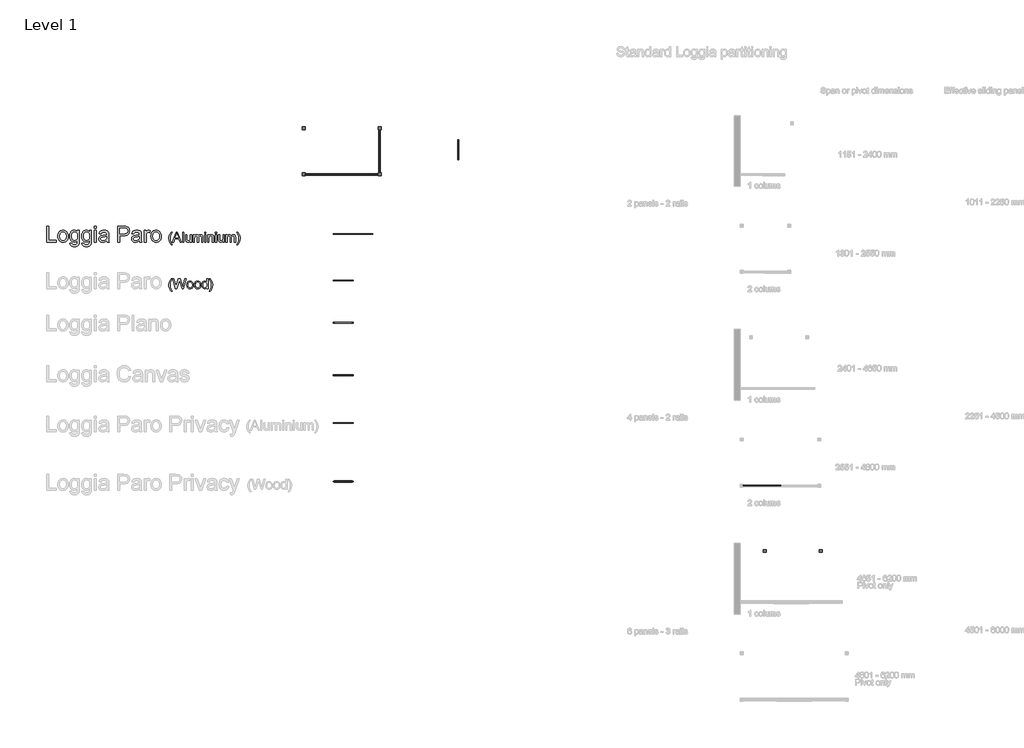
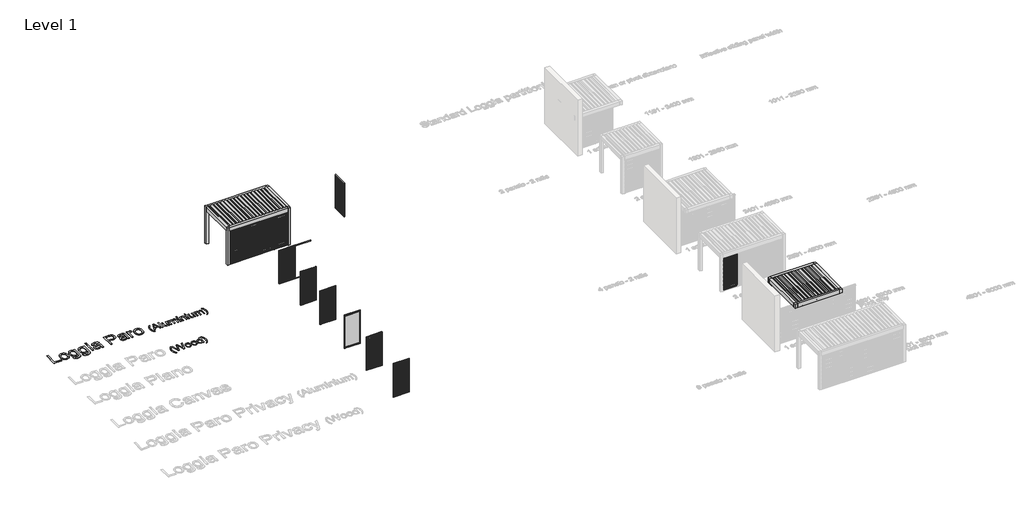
# One storey, part 32 of 69: 19 proxies.
"""IFC4 building model written with IfcOpenShell, lengths in millimetres."""

from ifc_helpers import new_model, si_unit, origin, origin_with_axes, place, context, project, spatial, polyline, outline, extrude, transform, mapped, element, save
from components import generic_models_86cdeedc, generic_models_456a874e, generic_models_a826ae34, generic_models_8007af27, generic_models_75aa1dad, generic_models_bb8b41d5, generic_models_04effbe2, generic_models_42a8c13e, generic_models_8e0265fe, generic_models_d6fe2a31, generic_models_e57e72d8, generic_models_be22ee1f, generic_models_a9ccf2dc, generic_models_1ebb2ca0, generic_models_ce49d216

model = new_model("IFC4")

# Units and contexts
model_context = context("Model", 3, world=origin())
ifc_project = project(units=[si_unit("LENGTHUNIT", "METRE", prefix="MILLI")], contexts=[model_context])

# Site, building, storey
site = spatial("IfcSite", under=ifc_project)
building = spatial("IfcBuilding", under=site)
storey = spatial("IfcBuildingStorey", under=building, Name="Level 1", Elevation=0.0)

# Proxies
placement = place(None, origin())
generic_models_shape = generic_models_86cdeedc(model_context)
element("IfcBuildingElementProxy", 1, Name="Renson_Camargue_Loggia_Paro_Aluminium : Renson_Camargue_Loggia_Paro_Aluminium", ObjectType="Renson_Camargue_Loggia_Paro_Aluminium : Renson_Camargue_Loggia_Paro_Aluminium", at=placement, inside=storey, context=model_context, shape_type="MappedRepresentation", body=[
    mapped(generic_models_shape, transform((207582.4649482, -11289.318181, 0.0), x_axis=(1.0, 0.0, 0.0), y_axis=(0.0, 1.0, 0.0), z_axis=(0.0, 0.0, 1.0))),
])
generic_models_2_shape = generic_models_456a874e(model_context)
element("IfcBuildingElementProxy", 2, Name="Renson_Camargue_Loggia_Paro_Aluminium : Renson_Camargue_Loggia_Paro_Aluminium", ObjectType="Renson_Camargue_Loggia_Paro_Aluminium : Renson_Camargue_Loggia_Paro_Aluminium", at=placement, inside=storey, context=model_context, shape_type="MappedRepresentation", body=[
    mapped(generic_models_2_shape, transform((208485.5749426, -11249.318181, 0.0), x_axis=(1.0, 0.0, 0.0), y_axis=(0.0, 1.0, 0.0), z_axis=(0.0, 0.0, 1.0))),
])
generic_models_3_shape = generic_models_a826ae34(model_context)
element("IfcBuildingElementProxy", 3, Name="Renson_Camargue_Loggia_Paro_Aluminium : Renson_Camargue_Loggia_Paro_Aluminium", ObjectType="Renson_Camargue_Loggia_Paro_Aluminium : Renson_Camargue_Loggia_Paro_Aluminium", at=placement, inside=storey, context=model_context, shape_type="MappedRepresentation", body=[
    mapped(generic_models_3_shape, transform((209465.5749426, -11249.318181, 0.0), x_axis=(1.0, 0.0, 0.0), y_axis=(0.0, 1.0, 0.0), z_axis=(0.0, 0.0, 1.0))),
])
generic_models_4_shape = generic_models_8007af27(model_context)
element("IfcBuildingElementProxy", 4, Name="Renson_Camargue_Loggia_Paro_Aluminium : Renson_Camargue_Loggia_Paro_Aluminium", ObjectType="Renson_Camargue_Loggia_Paro_Aluminium : Renson_Camargue_Loggia_Paro_Aluminium", at=placement, inside=storey, context=model_context, shape_type="MappedRepresentation", body=[
    mapped(generic_models_4_shape, transform((210375.5749426, -11289.318181, 0.0), x_axis=(1.0, 0.0, 0.0), y_axis=(0.0, 1.0, 0.0), z_axis=(0.0, 0.0, 1.0))),
])
generic_models_5_shape = generic_models_75aa1dad(model_context)
element("IfcBuildingElementProxy", 5, Name="Renson_Camargue_Loggia_Paro_Aluminium : Renson_Camargue_Loggia_Paro_Aluminium", ObjectType="Renson_Camargue_Loggia_Paro_Aluminium : Renson_Camargue_Loggia_Paro_Aluminium", at=placement, inside=storey, context=model_context, shape_type="MappedRepresentation", body=[
    mapped(generic_models_5_shape, transform((210920.5749426, -9549.318181, 0.0), x_axis=(0.0, 1.0000000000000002, 0.0), y_axis=(-1.0000000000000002, 0.0, 0.0), z_axis=(0.0, 0.0, 1.0))),
])
generic_models_6_shape = generic_models_bb8b41d5(model_context)
element("IfcBuildingElementProxy", 6, Name="Renson_Camargue_Loggia_Paro_Aluminium : Renson_Camargue_Loggia_Paro_Aluminium", ObjectType="Renson_Camargue_Loggia_Paro_Aluminium : Renson_Camargue_Loggia_Paro_Aluminium", at=placement, inside=storey, context=model_context, shape_type="MappedRepresentation", body=[
    mapped(generic_models_6_shape, transform((214898.9521491, -10011.4946155, 0.0), x_axis=(0.0, 1.0000000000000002, 0.0), y_axis=(-1.0000000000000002, 0.0, 0.0), z_axis=(0.0, 0.0, 1.0))),
])
generic_models_7_shape = generic_models_04effbe2(model_context)
element("IfcBuildingElementProxy", 7, Name="Renson_Camargue_Loggia_Paro_Aluminium : Renson_Camargue_Loggia_Paro_Aluminium", ObjectType="Renson_Camargue_Loggia_Paro_Aluminium : Renson_Camargue_Loggia_Paro_Aluminium", at=placement, inside=storey, context=model_context, shape_type="MappedRepresentation", body=[
    mapped(generic_models_7_shape, transform((210870.5749426, -10629.318181, 0.0), x_axis=(0.0, 1.0000000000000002, 0.0), y_axis=(-1.0000000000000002, 0.0, 0.0), z_axis=(0.0, 0.0, 1.0))),
])
element("IfcBuildingElementProxy", 8, Name="Renson_Camargue_Loggia_Paro_Wood : Renson_Camargue_Loggia_Paro_Wood", ObjectType="Renson_Camargue_Loggia_Paro_Wood : Renson_Camargue_Loggia_Paro_Wood", at=placement, inside=storey, context=model_context, shape_type="MappedRepresentation", body=[
    mapped(generic_models_6_shape, transform((209050.5749426, -16662.8726434, 0.0), x_axis=(1.0, 0.0, 0.0), y_axis=(0.0, 1.0, 0.0), z_axis=(0.0, 0.0, 1.0))),
])
generic_models_8_shape = generic_models_42a8c13e(model_context)
element("IfcBuildingElementProxy", 9, Name="Renson_Camargue_Loggia_Plano : Renson_Camargue_Loggia_Plano", ObjectType="Renson_Camargue_Loggia_Plano : Renson_Camargue_Loggia_Plano", at=placement, inside=storey, context=model_context, shape_type="MappedRepresentation", body=[
    mapped(generic_models_8_shape, transform((209050.5749426, -18808.182137, 0.0), x_axis=(1.0, 0.0, 0.0), y_axis=(0.0, 1.0, 0.0), z_axis=(0.0, 0.0, 1.0))),
])
generic_models_9_shape = generic_models_8e0265fe(model_context)
element("IfcBuildingElementProxy", 10, Name="Renson_Camargue_Loggia_Canvas : Renson_Camargue_Loggia_Canvas", ObjectType="Renson_Camargue_Loggia_Canvas : Renson_Camargue_Loggia_Canvas", at=placement, inside=storey, context=model_context, shape_type="MappedRepresentation", body=[
    mapped(generic_models_9_shape, transform((209050.5749426, -21480.3022523, 0.0), x_axis=(1.0, 0.0, 0.0), y_axis=(0.0, 1.0, 0.0), z_axis=(0.0, 0.0, 1.0))),
])
generic_models_10_shape = generic_models_d6fe2a31(model_context)
element("IfcBuildingElementProxy", 11, Name="Renson_Camargue_Loggia_Paro_Privacy_Wood : Renson_Camargue_Loggia_Paro_Privacy_Wood", ObjectType="Renson_Camargue_Loggia_Paro_Privacy_Wood : Renson_Camargue_Loggia_Paro_Privacy_Wood", at=placement, inside=storey, context=model_context, shape_type="MappedRepresentation", body=[
    mapped(generic_models_10_shape, transform((209050.5749426, -26880.959094, 0.0), x_axis=(1.0, 0.0, 0.0), y_axis=(0.0, 1.0, 0.0), z_axis=(0.0, 0.0, 1.0))),
])
generic_models_11_shape = generic_models_e57e72d8(model_context)
element("IfcBuildingElementProxy", 12, Name="Renson_Camargue_Loggia_Paro_Aluminium : Renson_Camargue_Loggia_Paro_Aluminium", ObjectType="Renson_Camargue_Loggia_Paro_Aluminium : Renson_Camargue_Loggia_Paro_Aluminium", at=placement, inside=storey, context=model_context, shape_type="MappedRepresentation", body=[
    mapped(generic_models_11_shape, transform((229881.2027724, -27084.1058954, 0.0), x_axis=(1.0, 0.0, 0.0), y_axis=(0.0, 1.0, 0.0), z_axis=(0.0, 0.0, 1.0))),
])
generic_models_12_shape = generic_models_be22ee1f(model_context)
element("IfcBuildingElementProxy", 13, Name="Renson_Camargue_Loggia_Paro_Privacy_Aluminium : Renson_Camargue_Loggia_Paro_Privacy_Aluminium", ObjectType="Renson_Camargue_Loggia_Paro_Privacy_Aluminium : Renson_Camargue_Loggia_Paro_Privacy_Aluminium", at=placement, inside=storey, context=model_context, shape_type="MappedRepresentation", body=[
    mapped(generic_models_12_shape, transform((209050.5749426, -23908.182137, 0.0), x_axis=(1.0, 0.0, 0.0), y_axis=(0.0, 1.0, 0.0), z_axis=(0.0, 0.0, 1.0))),
])
generic_models_13_shape = generic_models_a9ccf2dc(model_context)
element("IfcBuildingElementProxy", 14, Name="Renson_Camargue_Loggia_Paro_Aluminium : Renson_Camargue_Loggia_Paro_Aluminium", ObjectType="Renson_Camargue_Loggia_Paro_Aluminium : Renson_Camargue_Loggia_Paro_Aluminium", at=placement, inside=storey, context=model_context, shape_type="MappedRepresentation", body=[
    mapped(generic_models_13_shape, transform((209050.5749426, -14294.3676714, 0.0), x_axis=(1.0, 0.0, 0.0), y_axis=(0.0, 1.0, 0.0), z_axis=(0.0, 0.0, 1.0))),
])
generic_models_14_shape = generic_models_1ebb2ca0(model_context)
element("IfcBuildingElementProxy", 15, Name="Renson_Camargue_Freestanding_Patio covers : Renson_Camargue_Freestanding_Patio covers", ObjectType="Renson_Camargue_Freestanding_Patio covers : Renson_Camargue_Freestanding_Patio covers", at=placement, inside=storey, context=model_context, shape_type="MappedRepresentation", body=[
    mapped(generic_models_14_shape, transform((208975.5749426, -10089.318181, 0.0), x_axis=(1.0, 0.0, 0.0), y_axis=(0.0, 1.0, 0.0), z_axis=(0.0, 0.0, 1.0))),
])
generic_models_15_shape = generic_models_ce49d216(model_context)
element("IfcBuildingElementProxy", 16, Name="Renson_Camargue_Facade-Mounted_Patio covers : Renson_Camargue_Facade-Mounted_Patio covers", ObjectType="Renson_Camargue_Facade-Mounted_Patio covers : Renson_Camargue_Facade-Mounted_Patio covers", at=placement, inside=storey, context=model_context, shape_type="MappedRepresentation", body=[
    mapped(generic_models_15_shape, transform((231913.7027724, -31844.5606558, 0.0), x_axis=(1.0, 0.0, 0.0), y_axis=(0.0, 1.0, 0.0), z_axis=(0.0, 0.0, 1.0))),
])
element("IfcBuildingElementProxy", 17, Name="500mm Arial", ObjectType="500mm Arial", at=placement, inside=storey, context=model_context, shape_type="SweptSolid", body=[
    extrude(outline(polyline([(200309.8198995, -14847.747949), (200284.4743629, -14814.952802), (200261.1675056, -14779.4751821), (200220.6698293, -14700.4725236), (200204.7359404, -14657.9055111), (200193.3545912, -14614.5720778), (200186.5257817, -14570.4722236), (200184.2495118, -14525.6059486), (200185.950966, -14486.1735972), (200191.0553287, -14447.5843088), (200199.5625999, -14409.8380832), (200211.4727795, -14372.9349206), (200229.5756393, -14330.6131627), (200252.0011126, -14288.3833754), (200278.7491993, -14246.2455585), (200309.8198995, -14204.1997121), (200356.9087949, -14204.1997121), (200298.170303, -14303.6504782), (200278.1207342, -14350.8620009), (200262.8536314, -14400.0355609), (200250.9894371, -14462.8514116), (200247.0347057, -14525.9738306), (200248.7514883, -14566.2224201), (200253.9018362, -14606.4633454), (200262.4857494, -14646.6966066), (200274.503228, -14686.9222035), (200308.8388808, -14767.3504047), (200356.9087949, -14847.747949), (200309.8198995, -14847.747949)])), origin_with_axes(), (0.0, 0.0, 1.0), 5.0),
    extrude(outline(polyline([(200369.0489007, -14706.4812629), (200569.5445881, -14204.1997121), (200623.0101047, -14204.1997121), (200823.5057921, -14706.4812629), (200757.1644056, -14706.4812629), (200699.6521871, -14549.5182783), (200492.7798784, -14549.5182783), (200435.3902872, -14706.4812629), (200369.0489007, -14706.4812629)]), holes=[polyline([(200515.8338168, -14486.7330844), (200676.720876, -14486.7330844), (200631.4713906, -14363.2473614), (200596.2773464, -14266.984906), (200565.0073768, -14352.4561562), (200515.8338168, -14486.7330844)])]), origin_with_axes(), (0.0, 0.0, 1.0), 5.0),
    extrude(outline(polyline([(200882.7347933, -14706.4812629), (200882.7347933, -14204.1997121), (200945.5199872, -14204.1997121), (200945.5199872, -14706.4812629), (200882.7347933, -14706.4812629)])), origin_with_axes(), (0.0, 0.0, 1.0), 5.0),
    extrude(outline(polyline([(201275.1422548, -14706.4812629), (201275.1422548, -14643.0829324), (201252.4255416, -14674.2532673), (201225.9686948, -14696.5177922), (201195.7717144, -14709.8765071), (201161.8346003, -14714.3294121), (201131.2544095, -14711.2024152), (201102.7895401, -14701.8214243), (201078.9078672, -14687.7192811), (201062.077266, -14670.4288274), (201050.7495662, -14649.4288968), (201043.3765979, -14624.1983233), (201039.6977779, -14565.8277134), (201039.6977779, -14337.6182491), (201102.4829718, -14337.6182491), (201102.4829718, -14536.2745265), (201106.2844191, -14600.2859936), (201115.4354837, -14621.6384777), (201131.1164537, -14637.8712708), (201152.2849969, -14648.1259814), (201177.8987808, -14651.5442183), (201204.9840927, -14648.0493393), (201230.3219651, -14637.5647025), (201251.2145967, -14621.0559979), (201264.9641863, -14599.488916), (201272.5977377, -14569.9510574), (201275.1422548, -14529.5300232), (201275.1422548, -14337.6182491), (201337.9274487, -14337.6182491), (201337.9274487, -14706.4812629), (201275.1422548, -14706.4812629)])), origin_with_axes(), (0.0, 0.0, 1.0), 5.0),
    extrude(outline(polyline([(201424.2570902, -14706.4812629), (201424.2570902, -14337.6182491), (201487.0422841, -14337.6182491), (201487.0422841, -14398.3187783), (201505.9268931, -14370.4363887), (201530.2071048, -14348.5933952), (201559.0551846, -14334.4759237), (201591.643398, -14329.7700998), (201626.5615307, -14334.5678942), (201654.5512192, -14348.9612772), (201675.4591793, -14371.9998872), (201689.1321267, -14402.7333622), (201712.0174525, -14370.8119349), (201738.1217458, -14348.0109154), (201767.4450065, -14334.3303037), (201799.9872346, -14329.7700998), (201825.1220055, -14331.6669914), (201847.1834289, -14337.357666), (201866.1715048, -14346.8421237), (201882.0862332, -14360.1203644), (201894.667031, -14377.3456724), (201903.6533152, -14398.6713318), (201909.0450857, -14424.0973427), (201910.8423425, -14453.6237049), (201910.8423425, -14706.4812629), (201848.0571487, -14706.4812629), (201848.0571487, -14480.6017178), (201846.6009491, -14449.285763), (201842.2323504, -14428.1785335), (201834.046976, -14413.7238368), (201821.1404493, -14402.3654802), (201804.5397743, -14395.0078403), (201785.2719548, -14392.5552937), (201767.4794954, -14394.1264564), (201751.2581987, -14398.8399444), (201736.6080646, -14406.6957579), (201723.5290933, -14417.6938967), (201712.772377, -14432.1562576), (201705.0890083, -14450.4047374), (201700.478987, -14472.4393361), (201698.9423133, -14498.2600536), (201698.9423133, -14706.4812629), (201636.1571194, -14706.4812629), (201636.1571194, -14473.6119599), (201632.5242847, -14438.1113474), (201621.6257806, -14412.7888034), (201613.1989837, -14403.9366429), (201602.4499316, -14397.6136711), (201573.9850623, -14392.5552937), (201549.7968211, -14395.9275453), (201527.5093035, -14406.0443002), (201509.1152038, -14422.6603036), (201496.6072159, -14445.530301), (201489.433517, -14477.2601231), (201487.0422841, -14520.4556007), (201487.0422841, -14706.4812629), (201424.2570902, -14706.4812629)])), origin_with_axes(), (0.0, 0.0, 1.0), 5.0),
    extrude(outline(polyline([(202005.0201333, -14266.984906), (202005.0201333, -14204.1997121), (202067.8053271, -14204.1997121), (202067.8053271, -14266.984906), (202005.0201333, -14266.984906)])), origin_with_axes(), (0.0, 0.0, 1.0), 5.0),
    extrude(outline(polyline([(202005.0201333, -14706.4812629), (202005.0201333, -14337.6182491), (202067.8053271, -14337.6182491), (202067.8053271, -14706.4812629), (202005.0201333, -14706.4812629)])), origin_with_axes(), (0.0, 0.0, 1.0), 5.0),
    extrude(outline(polyline([(202161.9831179, -14706.4812629), (202161.9831179, -14337.6182491), (202224.7683117, -14337.6182491), (202224.7683117, -14389.1217284), (202246.5806484, -14363.1553909), (202272.7769121, -14344.608007), (202303.3571029, -14333.4795766), (202338.3212209, -14329.7700998), (202369.2692937, -14332.759141), (202397.6115358, -14341.7262647), (202421.247954, -14355.5524963), (202438.0785553, -14373.1188616), (202449.4982255, -14394.3793752), (202456.9018507, -14419.288052), (202460.2127886, -14479.9885812), (202460.2127886, -14706.4812629), (202397.4275948, -14706.4812629), (202397.4275948, -14488.4498671), (202395.6188416, -14455.984281), (202390.1925822, -14432.8996858), (202380.1831263, -14416.3603244), (202364.6247836, -14403.5304399), (202344.6825137, -14395.2990802), (202321.5212765, -14392.5552937), (202302.4565585, -14394.0957995), (202284.7484054, -14398.7173171), (202268.3968171, -14406.4198464), (202253.4017937, -14417.2033873), (202240.8746453, -14432.2942134), (202231.9266822, -14452.9185977), (202226.5579043, -14479.0765404), (202224.7683117, -14510.7680415), (202224.7683117, -14706.4812629), (202161.9831179, -14706.4812629)])), origin_with_axes(), (0.0, 0.0, 1.0), 5.0),
    extrude(outline(polyline([(202546.5424302, -14706.4812629), (202546.5424302, -14337.6182491), (202609.327624, -14337.6182491), (202609.327624, -14706.4812629), (202546.5424302, -14706.4812629)])), origin_with_axes(), (0.0, 0.0, 1.0), 5.0),
    extrude(outline(polyline([(202546.5424302, -14266.984906), (202546.5424302, -14204.1997121), (202609.327624, -14204.1997121), (202609.327624, -14266.984906), (202546.5424302, -14266.984906)])), origin_with_axes(), (0.0, 0.0, 1.0), 5.0),
    extrude(outline(polyline([(202938.9498917, -14706.4812629), (202938.9498917, -14643.0829324), (202916.2331785, -14674.2532673), (202889.7763317, -14696.5177922), (202859.5793512, -14709.8765071), (202825.6422372, -14714.3294121), (202795.0620463, -14711.2024152), (202766.597177, -14701.8214243), (202742.7155041, -14687.7192811), (202725.8849028, -14670.4288274), (202714.5572031, -14649.4288968), (202707.1842347, -14624.1983233), (202703.5054148, -14565.8277134), (202703.5054148, -14337.6182491), (202766.2906086, -14337.6182491), (202766.2906086, -14536.2745265), (202770.0920559, -14600.2859936), (202779.2431205, -14621.6384777), (202794.9240906, -14637.8712708), (202816.0926337, -14648.1259814), (202841.7064176, -14651.5442183), (202868.7917295, -14648.0493393), (202894.1296019, -14637.5647025), (202915.0222336, -14621.0559979), (202928.7718232, -14599.488916), (202936.4053746, -14569.9510574), (202938.9498917, -14529.5300232), (202938.9498917, -14337.6182491), (203001.7350855, -14337.6182491), (203001.7350855, -14706.4812629), (202938.9498917, -14706.4812629)])), origin_with_axes(), (0.0, 0.0, 1.0), 5.0),
    extrude(outline(polyline([(203088.0647271, -14706.4812629), (203088.0647271, -14337.6182491), (203150.8499209, -14337.6182491), (203150.8499209, -14398.3187783), (203169.73453, -14370.4363887), (203194.0147417, -14348.5933952), (203222.8628215, -14334.4759237), (203255.4510349, -14329.7700998), (203290.3691676, -14334.5678942), (203318.3588561, -14348.9612772), (203339.2668161, -14371.9998872), (203352.9397636, -14402.7333622), (203375.8250894, -14370.8119349), (203401.9293826, -14348.0109154), (203431.2526433, -14334.3303037), (203463.7948715, -14329.7700998), (203488.9296424, -14331.6669914), (203510.9910658, -14337.357666), (203529.9791417, -14346.8421237), (203545.8938701, -14360.1203644), (203558.4746679, -14377.3456724), (203567.460952, -14398.6713318), (203572.8527225, -14424.0973427), (203574.6499794, -14453.6237049), (203574.6499794, -14706.4812629), (203511.8647855, -14706.4812629), (203511.8647855, -14480.6017178), (203510.408586, -14449.285763), (203506.0399873, -14428.1785335), (203497.8546129, -14413.7238368), (203484.9480862, -14402.3654802), (203468.3474112, -14395.0078403), (203449.0795917, -14392.5552937), (203431.2871323, -14394.1264564), (203415.0658355, -14398.8399444), (203400.4157015, -14406.6957579), (203387.3367301, -14417.6938967), (203376.5800139, -14432.1562576), (203368.8966451, -14450.4047374), (203364.2866239, -14472.4393361), (203362.7499501, -14498.2600536), (203362.7499501, -14706.4812629), (203299.9647563, -14706.4812629), (203299.9647563, -14473.6119599), (203296.3319216, -14438.1113474), (203285.4334175, -14412.7888034), (203277.0066205, -14403.9366429), (203266.2575685, -14397.6136711), (203237.7926991, -14392.5552937), (203213.6044579, -14395.9275453), (203191.3169404, -14406.0443002), (203172.9228406, -14422.6603036), (203160.4148528, -14445.530301), (203153.2411539, -14477.2601231), (203150.8499209, -14520.4556007), (203150.8499209, -14706.4812629), (203088.0647271, -14706.4812629)])), origin_with_axes(), (0.0, 0.0, 1.0), 5.0),
    extrude(outline(polyline([(203684.5240686, -14847.747949), (203637.4351732, -14847.747949), (203685.5050872, -14767.3504047), (203719.8407401, -14686.9222035), (203731.8582186, -14646.6966066), (203740.4421319, -14606.4633454), (203745.5924798, -14566.2224201), (203747.3092624, -14525.9738306), (203743.354531, -14463.3112641), (203731.4903366, -14401.1392069), (203716.4991453, -14351.8736764), (203696.5415471, -14304.6314968), (203637.4351732, -14204.1997121), (203684.5240686, -14204.1997121), (203715.5947688, -14246.2455585), (203742.3428555, -14288.3833754), (203764.7683288, -14330.6131627), (203782.8711886, -14372.9349206), (203794.7813682, -14409.8380832), (203803.2886394, -14447.5843088), (203808.393002, -14486.1735972), (203810.0944563, -14525.6059486), (203807.8066901, -14570.4722236), (203800.9433916, -14614.5720778), (203789.5045609, -14657.9055111), (203773.4901978, -14700.4725236), (203732.9465362, -14779.4751821), (203684.5240686, -14847.747949)])), origin_with_axes(), (0.0, 0.0, 1.0), 5.0),
])
element("IfcBuildingElementProxy", 18, Name="500mm Arial", ObjectType="500mm Arial", at=placement, inside=storey, context=model_context, shape_type="SweptSolid", body=[
    extrude(outline(polyline([(200308.305181, -17216.2529211), (200282.9596444, -17183.4577741), (200259.6527871, -17147.9801541), (200219.1551108, -17068.9774957), (200203.2212219, -17026.4104832), (200191.8398727, -16983.0770498), (200185.0110632, -16938.9771956), (200182.7347933, -16894.1109206), (200184.4362475, -16854.6785693), (200189.5406102, -16816.0892808), (200198.0478814, -16778.3430553), (200209.958061, -16741.4398926), (200228.0609208, -16699.1181348), (200250.4863941, -16656.8883474), (200277.2344808, -16614.7505306), (200308.305181, -16572.7046842), (200355.3940764, -16572.7046842), (200296.6555845, -16672.1554502), (200276.6060158, -16719.3669729), (200261.338913, -16768.540533), (200249.4747186, -16831.3563836), (200245.5199872, -16894.4788026), (200247.2367698, -16934.7273922), (200252.3871177, -16974.9683175), (200260.971031, -17015.2015786), (200272.9885095, -17055.4271755), (200307.3241624, -17135.8553767), (200355.3940764, -17216.2529211), (200308.305181, -17216.2529211)])), origin_with_axes(), (0.0, 0.0, 1.0), 5.0),
    extrude(outline(polyline([(200515.9132536, -17074.9862349), (200378.9385241, -16572.7046842), (200443.6857552, -16572.7046842), (200523.1482662, -16902.8174612), (200547.6737325, -17004.7207739), (200573.9159815, -16914.589685), (200673.4893749, -16572.7046842), (200766.8087743, -16572.7046842), (200839.1589, -16820.5345216), (200870.1529581, -16912.5050204), (200892.9922987, -17004.7207739), (200916.782001, -16905.7605172), (200996.980276, -16572.7046842), (201061.7275071, -16572.7046842), (200924.6301503, -17074.9862349), (200857.5529998, -17074.9862349), (200737.13296, -16687.4838667), (200720.3330156, -16633.4052134), (200701.4484065, -16698.5203265), (200591.6969446, -17074.9862349), (200515.9132536, -17074.9862349)])), origin_with_axes(), (0.0, 0.0, 1.0), 5.0),
    extrude(outline(polyline([(201100.9682533, -16890.554728), (201104.3634975, -16842.7837181), (201114.5492303, -16801.6192557), (201131.5254515, -16767.0613408), (201155.2921612, -16739.1099733), (201179.2198193, -16721.244704), (201205.6306809, -16708.4837972), (201234.5247459, -16700.8272532), (201265.9020144, -16698.2750719), (201300.5404036, -16701.3829083), (201331.8601905, -16710.7064176), (201359.8613753, -16726.2455998), (201384.5439579, -16748.0004549), (201404.6893292, -16775.2352188), (201419.0788802, -16807.2141277), (201427.7126108, -16843.9371814), (201430.590521, -16885.4043801), (201425.5014867, -16948.8333674), (201419.1401939, -16974.8686828), (201410.2343839, -16997.1178793), (201398.8951878, -17016.3358814), (201385.2337366, -17033.2776137), (201369.2500304, -17047.9430762), (201350.944069, -17060.3322688), (201310.2164665, -17077.2088553), (201265.9020144, -17082.8343842), (201230.7577876, -17079.738044), (201199.1467607, -17070.4490237), (201171.0689339, -17054.967323), (201146.524307, -17033.2929422), (201126.5935335, -17005.793763), (201112.3572667, -16972.8376676), (201103.8155066, -16934.4246559), (201100.9682533, -16890.554728)]), holes=[polyline([(201163.7534471, -16890.4321007), (201165.5698645, -16920.8858321), (201171.0191165, -16947.2545405), (201180.1012033, -16969.538226), (201192.8161247, -16987.7368884), (201208.282497, -17001.8735205), (201225.618936, -17011.9711148), (201244.8254418, -17018.0296715), (201265.9020144, -17020.0491903), (201286.8712882, -17018.0181751), (201306.0011519, -17011.9251296), (201323.2916057, -17001.7700537), (201338.7426495, -16987.5529474), (201351.457571, -16969.1741761), (201360.5396577, -16946.534105), (201365.9889098, -16919.6327341), (201367.8053271, -16888.4700634), (201365.9774135, -16858.9820222), (201360.4936725, -16833.3030925), (201351.3541041, -16811.4332743), (201338.5587085, -16793.3725676), (201323.0501831, -16779.2359355), (201305.7712257, -16769.1383412), (201286.7218361, -16763.0797846), (201265.9020144, -16761.0602657), (201244.8254418, -16763.0721204), (201225.618936, -16769.1076844), (201208.282497, -16779.1669577), (201192.8161247, -16793.2499403), (201180.1012033, -16811.3949533), (201171.0191165, -16833.6403177), (201165.5698645, -16859.9860335), (201163.7534471, -16890.4321007)])]), origin_with_axes(), (0.0, 0.0, 1.0), 5.0),
    extrude(outline(polyline([(201485.5275656, -16890.554728), (201488.9228098, -16842.7837181), (201499.1085426, -16801.6192557), (201516.0847638, -16767.0613408), (201539.8514735, -16739.1099733), (201563.7791316, -16721.244704), (201590.1899932, -16708.4837972), (201619.0840582, -16700.8272532), (201650.4613267, -16698.2750719), (201685.0997158, -16701.3829083), (201716.4195028, -16710.7064176), (201744.4206876, -16726.2455998), (201769.1032702, -16748.0004549), (201789.2486415, -16775.2352188), (201803.6381925, -16807.2141277), (201812.2719231, -16843.9371814), (201815.1498332, -16885.4043801), (201810.060799, -16948.8333674), (201803.6995061, -16974.8686828), (201794.7936962, -16997.1178793), (201783.4545001, -17016.3358814), (201769.7930489, -17033.2776137), (201753.8093427, -17047.9430762), (201735.5033813, -17060.3322688), (201694.7757787, -17077.2088553), (201650.4613267, -17082.8343842), (201615.3170999, -17079.738044), (201583.706073, -17070.4490237), (201555.6282462, -17054.967323), (201531.0836193, -17033.2929422), (201511.1528458, -17005.793763), (201496.916579, -16972.8376676), (201488.3748189, -16934.4246559), (201485.5275656, -16890.554728)]), holes=[polyline([(201548.3127594, -16890.4321007), (201550.1291768, -16920.8858321), (201555.5784288, -16947.2545405), (201564.6605156, -16969.538226), (201577.375437, -16987.7368884), (201592.8418092, -17001.8735205), (201610.1782483, -17011.9711148), (201629.3847541, -17018.0296715), (201650.4613267, -17020.0491903), (201671.4306005, -17018.0181751), (201690.5604642, -17011.9251296), (201707.850918, -17001.7700537), (201723.3019618, -16987.5529474), (201736.0168832, -16969.1741761), (201745.09897, -16946.534105), (201750.5482221, -16919.6327341), (201752.3646394, -16888.4700634), (201750.5367257, -16858.9820222), (201745.0529848, -16833.3030925), (201735.9134164, -16811.4332743), (201723.1180208, -16793.3725676), (201707.6094954, -16779.2359355), (201690.330538, -16769.1383412), (201671.2811484, -16763.0797846), (201650.4613267, -16761.0602657), (201629.3847541, -16763.0721204), (201610.1782483, -16769.1076844), (201592.8418092, -16779.1669577), (201577.375437, -16793.2499403), (201564.6605156, -16811.3949533), (201555.5784288, -16833.6403177), (201550.1291768, -16859.9860335), (201548.3127594, -16890.4321007)])]), origin_with_axes(), (0.0, 0.0, 1.0), 5.0),
    extrude(outline(polyline([(202113.379504, -17074.9862349), (202113.379504, -17015.7572337), (202094.5945296, -17045.103487), (202071.8394954, -17066.0650966), (202045.1144013, -17078.6420623), (202014.4192473, -17082.8343842), (201973.8296005, -17076.7643312), (201936.673519, -17058.5541725), (201905.2196084, -17029.4761665), (201881.7364744, -16990.8025717), (201867.1131651, -16944.0968867), (201862.2387286, -16890.92261), (201866.7299547, -16838.4074552), (201880.2036327, -16790.9813347), (201890.3050592, -16769.8511126), (201902.6444344, -16751.3420497), (201917.2217585, -16735.454146), (201934.0370314, -16722.1874016), (201972.0055189, -16704.2531543), (202014.1739926, -16698.2750719), (202044.8921392, -16702.5517001), (202072.0540932, -16715.3815847), (202095.0773747, -16735.047943), (202113.379504, -16759.8339924), (202113.379504, -16572.7046842), (202176.1646978, -16572.7046842), (202176.1646978, -17074.9862349), (202113.379504, -17074.9862349)]), holes=[polyline([(201925.0239225, -16890.6773554), (201926.7943546, -16921.1234226), (201932.1056509, -16947.4691384), (201940.9578114, -16969.7145028), (201953.3508361, -16987.8595157), (201968.1504222, -17001.9424984), (201984.2222669, -17012.0017717), (202001.5663701, -17018.0373357), (202020.1827319, -17020.0491903), (202038.8872321, -17018.1293062), (202056.1278685, -17012.3696537), (202071.9046412, -17002.7702329), (202086.21755, -16989.3310437), (202098.1009049, -16971.9447874), (202106.5890155, -16950.5041648), (202111.6818819, -16925.0091761), (202113.379504, -16895.4598213), (202111.651225, -16863.0632131), (202106.4663882, -16835.2804582), (202097.8249934, -16812.1115568), (202085.7270407, -16793.5565086), (202071.0998993, -16779.3394024), (202054.8709384, -16769.1843264), (202037.0401579, -16763.0912809), (202017.6075579, -16761.0602657), (201998.6233141, -16763.0108067), (201981.2792109, -16768.8624297), (201965.5752482, -16778.6151347), (201951.5114261, -16792.2689216), (201939.9231433, -16810.1226947), (201931.6457984, -16832.475358), (201926.6793915, -16859.3269116), (201925.0239225, -16890.6773554)])]), origin_with_axes(), (0.0, 0.0, 1.0), 5.0),
    extrude(outline(polyline([(202286.0387871, -17216.2529211), (202238.9498917, -17216.2529211), (202287.0198057, -17135.8553767), (202321.3554586, -17055.4271755), (202333.3729371, -17015.2015786), (202341.9568503, -16974.9683175), (202347.1071983, -16934.7273922), (202348.8239809, -16894.4788026), (202344.8692495, -16831.8162361), (202333.0050551, -16769.6441789), (202318.0138638, -16720.3786484), (202298.0562656, -16673.1364689), (202238.9498917, -16572.7046842), (202286.0387871, -16572.7046842), (202317.1094873, -16614.7505306), (202343.857574, -16656.8883474), (202366.2830473, -16699.1181348), (202384.3859071, -16741.4398926), (202396.2960867, -16778.3430553), (202404.8033579, -16816.0892808), (202409.9077205, -16854.6785693), (202411.6091748, -16894.1109206), (202409.3214086, -16938.9771956), (202402.4581101, -16983.0770498), (202391.0192793, -17026.4104832), (202375.0049162, -17068.9774957), (202334.4612547, -17147.9801541), (202286.0387871, -17216.2529211)])), origin_with_axes(), (0.0, 0.0, 1.0), 5.0),
])
element("IfcBuildingElementProxy", 19, Name="800mm Arial", ObjectType="800mm Arial", at=placement, inside=storey, context=model_context, shape_type="SweptSolid", body=[
    extrude(outline(polyline([(193965.6331768, -14706.4812629), (193965.6331768, -13907.0925645), (194065.556764, -13907.0925645), (194065.556764, -14606.5576756), (194465.2511132, -14606.5576756), (194465.2511132, -14706.4812629), (193965.6331768, -14706.4812629)])), origin_with_axes(), (0.0, 0.0, 1.0), 5.0),
    extrude(outline(polyline([(194540.1938037, -14412.9557252), (194545.5973864, -14336.9274391), (194552.3518647, -14302.8562038), (194561.8081343, -14271.4135735), (194573.9661953, -14242.5995483), (194588.8260477, -14216.4141283), (194606.3876913, -14192.8573133), (194626.6511263, -14171.9291035), (194664.7323567, -14143.4962566), (194706.7656431, -14123.1870802), (194752.7509853, -14111.0015744), (194802.6883836, -14106.9397391), (194857.8159047, -14111.8859079), (194907.6618201, -14126.7244143), (194952.22613, -14151.4552582), (194991.5088342, -14186.0784396), (195023.5704979, -14229.4229791), (195046.4716863, -14280.3178971), (195060.2123993, -14338.7631935), (195064.792637, -14404.7588684), (195062.7678182, -14458.2457984), (195056.6933618, -14505.7070628), (195046.5692679, -14547.1426617), (195032.3955364, -14582.5525951), (195014.349034, -14613.1383366), (194992.6066275, -14640.1013603), (194967.1683168, -14663.441666), (194938.0341019, -14683.1592537), (194906.3383693, -14698.8272039), (194873.2155054, -14710.0185969), (194838.6655101, -14716.7334327), (194802.6883836, -14718.9717113), (194746.7558141, -14714.0438391), (194696.4463859, -14699.2602224), (194651.760099, -14674.6208613), (194612.6969535, -14640.1257557), (194580.9768254, -14596.3603954), (194558.3195911, -14543.9102703), (194544.7252505, -14482.7753802), (194540.1938037, -14412.9557252)]), holes=[polyline([(194640.117391, -14412.760562), (194643.0082467, -14461.2281369), (194651.6808139, -14503.1943359), (194666.1350926, -14538.6591589), (194686.3710828, -14567.6226059), (194710.9860485, -14590.1212701), (194738.5772539, -14606.1917445), (194769.1446989, -14615.8340291), (194802.6883836, -14619.048124), (194836.0613004, -14615.8157326), (194866.5067684, -14606.1185583), (194894.0247876, -14589.9566011), (194918.6153579, -14567.3298611), (194938.8513481, -14538.079768), (194953.3056267, -14502.0477518), (194961.9781939, -14459.2338124), (194964.8690497, -14409.6379499), (194961.9598974, -14362.7072855), (194953.2324405, -14321.8388799), (194938.6866791, -14287.0327329), (194918.322613, -14258.2888445), (194893.6405599, -14235.7901803), (194866.1408373, -14219.7197059), (194835.8234452, -14210.0774213), (194802.6883836, -14206.8633264), (194769.1446989, -14210.0652236), (194738.5772539, -14219.6709151), (194710.9860485, -14235.680401), (194686.3710828, -14258.0936812), (194666.1350926, -14286.9717443), (194651.6808139, -14322.3755788), (194643.0082467, -14364.3051847), (194640.117391, -14412.760562)])]), origin_with_axes(), (0.0, 0.0, 1.0), 5.0),
    extrude(outline(polyline([(195152.2257759, -14756.4430565), (195252.1493631, -14768.9335049), (195256.3697686, -14785.7663358), (195263.1760871, -14800.159626), (195272.5683189, -14812.1133754), (195284.5464637, -14821.6275842), (195303.9286146, -14831.3613516), (195326.5553547, -14838.3140426), (195381.5426022, -14843.8761954), (195412.7443278, -14842.3026917), (195440.1891607, -14837.5821804), (195463.877101, -14829.7146616), (195483.8081485, -14818.7001353), (195500.3970253, -14804.8435441), (195514.0584533, -14788.4498306), (195524.7924324, -14769.5189947), (195532.5989626, -14748.0510365), (195538.014743, -14705.0663293), (195539.4296766, -14631.5385724), (195506.1787368, -14664.3259995), (195469.0733227, -14687.7455903), (195428.1134342, -14701.7973447), (195383.2990715, -14706.4812629), (195328.5130861, -14701.0288894), (195280.2772675, -14684.671769), (195258.6156707, -14672.4039287), (195238.5916157, -14657.4099016), (195203.4561307, -14619.2432873), (195175.5782793, -14573.4531082), (195155.6655283, -14523.3205467), (195143.7178776, -14468.8456028), (195139.7353274, -14410.0282764), (195141.522291, -14368.8793235), (195146.8831817, -14329.3526652), (195155.8179995, -14291.4483015), (195168.3267445, -14255.1662324), (195184.2203522, -14221.7140305), (195203.3097582, -14192.2992684), (195225.5949626, -14166.9219462), (195251.0759652, -14145.5820639), (195279.3441432, -14128.6760468), (195309.9908733, -14116.6003203), (195343.0161556, -14109.3548844), (195378.4199901, -14106.9397391), (195425.1493923, -14112.4043103), (195467.5608074, -14128.7980239), (195505.6542356, -14156.1208798), (195539.4296766, -14194.372878), (195539.4296766, -14119.4301875), (195639.3532639, -14119.4301875), (195639.3532639, -14626.2691645), (195637.6455854, -14689.7765079), (195632.5225499, -14743.2939321), (195623.9841575, -14786.8214372), (195612.030408, -14820.359023), (195596.3746555, -14847.4074306), (195576.730254, -14871.4674008), (195553.0972034, -14892.5389336), (195525.4755038, -14910.6220291), (195494.1457023, -14925.1372963), (195459.3883461, -14935.5053443), (195421.2034352, -14941.7261731), (195379.5909696, -14943.7997827), (195330.6354865, -14940.8784327), (195286.6200733, -14932.1143827), (195247.5447301, -14917.5076328), (195213.4094567, -14897.0581828), (195185.8365479, -14870.7416374), (195166.4482982, -14838.5336013), (195155.2447075, -14800.4340743), (195152.2257759, -14756.4430565)]), holes=[polyline([(195239.6589147, -14403.1975624), (195242.324113, -14452.6043605), (195250.3197076, -14494.8511067), (195263.6456987, -14529.9378009), (195282.3020863, -14557.8644431), (195304.983716, -14579.1677323), (195330.3854336, -14594.3843675), (195358.5072391, -14603.5143486), (195389.3491324, -14606.5576756), (195419.8860832, -14603.5326451), (195447.8737139, -14594.4575537), (195473.3120246, -14579.3324013), (195496.2010153, -14558.157188), (195515.1135546, -14530.5049941), (195528.6225113, -14495.9489), (195536.7278853, -14454.4889057), (195539.4296766, -14406.1250112), (195536.6486002, -14359.7798367), (195528.305371, -14319.4969208), (195514.399989, -14285.2762635), (195494.9324542, -14257.117865), (195471.5494565, -14235.1315043), (195445.897686, -14219.4269611), (195417.9771426, -14210.0042351), (195387.7878264, -14206.8633264), (195358.1047148, -14209.9554443), (195330.7269693, -14219.2317978), (195305.6545897, -14234.692387), (195282.887576, -14256.3372119), (195263.9750367, -14284.0686909), (195250.4660801, -14317.7892423), (195242.3607061, -14357.4988661), (195239.6589147, -14403.1975624)])]), origin_with_axes(), (0.0, 0.0, 1.0), 5.0),
    extrude(outline(polyline([(195764.257748, -14756.4430565), (195864.1813353, -14768.9335049), (195868.4017407, -14785.7663358), (195875.2080593, -14800.159626), (195884.600291, -14812.1133754), (195896.5784359, -14821.6275842), (195915.9605868, -14831.3613516), (195938.5873268, -14838.3140426), (195993.5745743, -14843.8761954), (196024.7763, -14842.3026917), (196052.2211329, -14837.5821804), (196075.9090731, -14829.7146616), (196095.8401207, -14818.7001353), (196112.4289975, -14804.8435441), (196126.0904254, -14788.4498306), (196136.8244046, -14769.5189947), (196144.6309348, -14748.0510365), (196150.0467152, -14705.0663293), (196151.4616488, -14631.5385724), (196118.210709, -14664.3259995), (196081.1052948, -14687.7455903), (196040.1454064, -14701.7973447), (195995.3310436, -14706.4812629), (195940.5450582, -14701.0288894), (195892.3092397, -14684.671769), (195870.6476429, -14672.4039287), (195850.6235878, -14657.4099016), (195815.4881028, -14619.2432873), (195787.6102514, -14573.4531082), (195767.6975004, -14523.3205467), (195755.7498498, -14468.8456028), (195751.7672996, -14410.0282764), (195753.5542632, -14368.8793235), (195758.9151539, -14329.3526652), (195767.8499717, -14291.4483015), (195780.3587167, -14255.1662324), (195796.2523244, -14221.7140305), (195815.3417304, -14192.2992684), (195837.6269347, -14166.9219462), (195863.1079374, -14145.5820639), (195891.3761153, -14128.6760468), (195922.0228454, -14116.6003203), (195955.0481277, -14109.3548844), (195990.4519622, -14106.9397391), (196037.1813644, -14112.4043103), (196079.5927796, -14128.7980239), (196117.6862077, -14156.1208798), (196151.4616488, -14194.372878), (196151.4616488, -14119.4301875), (196251.3852361, -14119.4301875), (196251.3852361, -14626.2691645), (196249.6775576, -14689.7765079), (196244.5545221, -14743.2939321), (196236.0161296, -14786.8214372), (196224.0623802, -14820.359023), (196208.4066277, -14847.4074306), (196188.7622262, -14871.4674008), (196165.1291756, -14892.5389336), (196137.5074759, -14910.6220291), (196106.1776744, -14925.1372963), (196071.4203182, -14935.5053443), (196033.2354073, -14941.7261731), (195991.6229418, -14943.7997827), (195942.6674587, -14940.8784327), (195898.6520455, -14932.1143827), (195859.5767022, -14917.5076328), (195825.4414289, -14897.0581828), (195797.8685201, -14870.7416374), (195778.4802703, -14838.5336013), (195767.2766796, -14800.4340743), (195764.257748, -14756.4430565)]), holes=[polyline([(195851.6908869, -14403.1975624), (195854.3560851, -14452.6043605), (195862.3516798, -14494.8511067), (195875.6776709, -14529.9378009), (195894.3340584, -14557.8644431), (195917.0156881, -14579.1677323), (195942.4174057, -14594.3843675), (195970.5392112, -14603.5143486), (196001.3811046, -14606.5576756), (196031.9180554, -14603.5326451), (196059.9056861, -14594.4575537), (196085.3439968, -14579.3324013), (196108.2329875, -14558.157188), (196127.1455268, -14530.5049941), (196140.6544835, -14495.9489), (196148.7598575, -14454.4889057), (196151.4616488, -14406.1250112), (196148.6805724, -14359.7798367), (196140.3373432, -14319.4969208), (196126.4319611, -14285.2762635), (196106.9644263, -14257.117865), (196083.5814287, -14235.1315043), (196057.9296581, -14219.4269611), (196030.0091148, -14210.0042351), (195999.8197985, -14206.8633264), (195970.136687, -14209.9554443), (195942.7589414, -14219.2317978), (195917.6865618, -14234.692387), (195894.9195482, -14256.3372119), (195876.0070089, -14284.0686909), (195862.4980522, -14317.7892423), (195854.3926782, -14357.4988661), (195851.6908869, -14403.1975624)])]), origin_with_axes(), (0.0, 0.0, 1.0), 5.0),
    extrude(outline(polyline([(196401.270617, -14007.0161518), (196401.270617, -13907.0925645), (196501.1942043, -13907.0925645), (196501.1942043, -14007.0161518), (196401.270617, -14007.0161518)])), origin_with_axes(), (0.0, 0.0, 1.0), 5.0),
    extrude(outline(polyline([(196401.270617, -14706.4812629), (196401.270617, -14119.4301875), (196501.1942043, -14119.4301875), (196501.1942043, -14706.4812629), (196401.270617, -14706.4812629)])), origin_with_axes(), (0.0, 0.0, 1.0), 5.0),
    extrude(outline(polyline([(197025.7930376, -14631.5385724), (196978.051226, -14672.4740655), (196953.6497201, -14687.6358109), (196928.8944808, -14699.2602224), (196877.2006132, -14714.0438391), (196821.8474346, -14718.9717113), (196777.356311, -14716.0076693), (196738.3419563, -14707.1155435), (196704.8043704, -14692.2953337), (196676.7435535, -14671.54704), (196654.586425, -14646.1880144), (196638.7599047, -14617.5356088), (196629.2639925, -14585.5898232), (196626.0986884, -14550.3506577), (196630.8801882, -14508.9272566), (196645.2246876, -14471.3095389), (196667.3513218, -14439.1076016), (196695.4792261, -14413.9315415), (196728.5350026, -14394.903124), (196765.4452535, -14381.1441144), (196851.9025761, -14366.1165437), (196954.0705409, -14350.3083199), (197025.2075478, -14331.7678105), (197025.7930376, -14309.5191993), (197024.0731614, -14285.2945601), (197018.9135328, -14264.9243952), (197010.3141518, -14248.4087046), (196998.2750184, -14235.7474884), (196977.4657362, -14223.1106675), (196952.1189083, -14214.0843669), (196922.2345347, -14208.6685865), (196887.8126153, -14206.8633264), (196828.2878221, -14211.6692216), (196805.2585578, -14217.6765906), (196786.7180485, -14226.0869072), (196771.4831168, -14237.5588473), (196758.3705855, -14252.7510871), (196747.3804546, -14271.6636264), (196738.5127241, -14294.2964653), (196638.5891368, -14281.8060169), (196655.9342713, -14227.1603051), (196667.8087356, -14204.2286225), (196681.8177981, -14184.2243887), (196698.5652451, -14166.7450795), (196718.6548628, -14151.3881708), (196742.0866513, -14138.1536625), (196768.8606105, -14127.0415545), (196830.2638501, -14111.965193), (196900.6933902, -14106.9397391), (196968.2442724, -14111.3797032), (197021.7921908, -14124.6995955), (197062.1665895, -14144.7282247), (197090.1969122, -14169.2943996), (197108.7862124, -14199.6666813), (197120.8375435, -14237.1136312), (197124.4968545, -14271.6575276), (197125.7166249, -14324.5467701), (197125.7166249, -14448.8657644), (197126.9851861, -14557.1569763), (197130.7908696, -14622.463481), (197138.3046549, -14665.375002), (197150.6975217, -14706.4812629), (197050.7739344, -14706.4812629), (197034.7705474, -14671.7422032), (197025.7930376, -14631.5385724)]), holes=[polyline([(197025.7930376, -14431.6913978), (196958.6568774, -14448.3290654), (196864.5881878, -14462.3320291), (196812.7479478, -14469.9921869), (196778.6187733, -14478.5305794), (196756.2481851, -14489.6060942), (196739.6837037, -14504.877619), (196729.4376327, -14523.1741743), (196726.0222757, -14543.3247805), (196727.8824255, -14558.8524571), (196733.4628749, -14573.0383863), (196742.7636238, -14585.8825681), (196755.7846723, -14597.3850025), (196772.4040434, -14606.8626182), (196792.4997599, -14613.6323436), (196843.1202296, -14619.048124), (196896.7901251, -14613.0712493), (196921.2831138, -14605.6001559), (196944.2147964, -14595.1406251), (196982.6619579, -14568.7203993), (197009.3993241, -14537.2747196), (197021.2554919, -14504.877619), (197025.2075478, -14459.99007), (197025.7930376, -14431.6913978)])]), origin_with_axes(), (0.0, 0.0, 1.0), 5.0),
    extrude(outline(polyline([(197587.8632161, -14706.4812629), (197587.8632161, -13907.0925645), (197884.1210394, -13907.0925645), (197953.1112505, -13908.9954063), (198003.5609523, -13914.7039315), (198056.8161259, -13928.9264539), (198100.6546724, -13952.0776952), (198119.2622691, -13967.263836), (198135.9548264, -13985.2066579), (198163.5948226, -14029.3623447), (198174.0116614, -14054.8006554), (198181.4522606, -14081.4465388), (198187.4047399, -14138.3610234), (198183.3855966, -14187.4323847), (198171.3281666, -14232.5760855), (198151.2324501, -14273.7921257), (198123.0984469, -14311.0805054), (198105.4041532, -14327.6388879), (198084.4744187, -14341.9894861), (198060.3092433, -14354.1323), (198032.908627, -14364.0673295), (197968.4010719, -14377.3140355), (197890.9517534, -14381.7296042), (197687.7868034, -14381.7296042), (197687.7868034, -14706.4812629), (197587.8632161, -14706.4812629)]), holes=[polyline([(197687.7868034, -14281.8060169), (197896.806651, -14281.8060169), (197944.8656029, -14279.5128486), (197985.4107695, -14272.6333438), (198018.4421506, -14261.1675025), (198043.9597464, -14245.1153247), (198063.0003616, -14224.9037299), (198076.600801, -14200.9596379), (198084.7610647, -14173.2830486), (198087.4811526, -14141.873962), (198085.8771546, -14118.5519529), (198081.0651605, -14096.9864131), (198073.0451705, -14077.1773425), (198061.8171844, -14059.1247413), (198047.9788897, -14043.4140992), (198032.127974, -14030.6309059), (198014.2644372, -14020.7751614), (197994.3882793, -14013.8468658), (197955.8435361, -14008.7238303), (197894.464692, -14007.0161518), (197687.7868034, -14007.0161518), (197687.7868034, -14281.8060169)])]), origin_with_axes(), (0.0, 0.0, 1.0), 5.0),
    extrude(outline(polyline([(198687.0226763, -14631.5385724), (198639.2808647, -14672.4740655), (198614.8793588, -14687.6358109), (198590.1241195, -14699.2602224), (198538.430252, -14714.0438391), (198483.0770734, -14718.9717113), (198438.5859498, -14716.0076693), (198399.571595, -14707.1155435), (198366.0340092, -14692.2953337), (198337.9731922, -14671.54704), (198315.8160638, -14646.1880144), (198299.9895434, -14617.5356088), (198290.4936312, -14585.5898232), (198287.3283272, -14550.3506577), (198292.1098269, -14508.9272566), (198306.4543263, -14471.3095389), (198328.5809605, -14439.1076016), (198356.7088648, -14413.9315415), (198389.7646414, -14394.903124), (198426.6748923, -14381.1441144), (198513.1322149, -14366.1165437), (198615.3001796, -14350.3083199), (198686.4371866, -14331.7678105), (198687.0226763, -14309.5191993), (198685.3028001, -14285.2945601), (198680.1431715, -14264.9243952), (198671.5437906, -14248.4087046), (198659.5046572, -14235.7474884), (198638.695375, -14223.1106675), (198613.348547, -14214.0843669), (198583.4641734, -14208.6685865), (198549.042254, -14206.8633264), (198489.5174608, -14211.6692216), (198466.4881966, -14217.6765906), (198447.9476872, -14226.0869072), (198432.7127555, -14237.5588473), (198419.6002242, -14252.7510871), (198408.6100933, -14271.6636264), (198399.7423629, -14294.2964653), (198299.8187756, -14281.8060169), (198317.16391, -14227.1603051), (198329.0383744, -14204.2286225), (198343.0474369, -14184.2243887), (198359.7948838, -14166.7450795), (198379.8845015, -14151.3881708), (198403.31629, -14138.1536625), (198430.0902492, -14127.0415545), (198491.4934888, -14111.965193), (198561.923029, -14106.9397391), (198629.4739111, -14111.3797032), (198683.0218296, -14124.6995955), (198723.3962283, -14144.7282247), (198751.426551, -14169.2943996), (198770.0158511, -14199.6666813), (198782.0671822, -14237.1136312), (198785.7264933, -14271.6575276), (198786.9462636, -14324.5467701), (198786.9462636, -14448.8657644), (198788.2148248, -14557.1569763), (198792.0205083, -14622.463481), (198799.5342937, -14665.375002), (198811.9271605, -14706.4812629), (198712.0035732, -14706.4812629), (198696.0001861, -14671.7422032), (198687.0226763, -14631.5385724)]), holes=[polyline([(198687.0226763, -14431.6913978), (198619.8865161, -14448.3290654), (198525.8178265, -14462.3320291), (198473.9775865, -14469.9921869), (198439.8484121, -14478.5305794), (198417.4778238, -14489.6060942), (198400.9133424, -14504.877619), (198390.6672714, -14523.1741743), (198387.2519145, -14543.3247805), (198389.1120642, -14558.8524571), (198394.6925136, -14573.0383863), (198403.9932626, -14585.8825681), (198417.0143111, -14597.3850025), (198433.6336821, -14606.8626182), (198453.7293987, -14613.6323436), (198504.3498683, -14619.048124), (198558.0197638, -14613.0712493), (198582.5127525, -14605.6001559), (198605.4444351, -14595.1406251), (198643.8915967, -14568.7203993), (198670.6289628, -14537.2747196), (198682.4851306, -14504.877619), (198686.4371866, -14459.99007), (198687.0226763, -14431.6913978)])]), origin_with_axes(), (0.0, 0.0, 1.0), 5.0),
    extrude(outline(polyline([(198924.3411962, -14706.4812629), (198924.3411962, -14119.4301875), (199011.774335, -14119.4301875), (199011.774335, -14206.2778367), (199044.073854, -14155.9257165), (199059.2721926, -14138.5073959), (199073.8362506, -14126.2609015), (199103.6962288, -14111.7700297), (199136.2884926, -14106.9397391), (199161.0742262, -14108.8669763), (199186.055123, -14114.6486878), (199211.2311831, -14124.2848735), (199236.6024064, -14137.7755336), (199203.2294896, -14227.3554683), (199168.1001034, -14211.9863619), (199132.9707173, -14206.8633264), (199103.1351345, -14211.7911986), (199076.4709545, -14226.5748153), (199054.9298101, -14250.0919877), (199040.4633337, -14281.2205271), (199028.314421, -14337.0372185), (199024.2647835, -14397.9281545), (199024.2647835, -14706.4812629), (198924.3411962, -14706.4812629)])), origin_with_axes(), (0.0, 0.0, 1.0), 5.0),
    extrude(outline(polyline([(199274.0737517, -14412.9557252), (199279.4773343, -14336.9274391), (199286.2318127, -14302.8562038), (199295.6880823, -14271.4135735), (199307.8461433, -14242.5995483), (199322.7059956, -14216.4141283), (199340.2676393, -14192.8573133), (199360.5310743, -14171.9291035), (199398.6123047, -14143.4962566), (199440.645591, -14123.1870802), (199486.6309333, -14111.0015744), (199536.5683316, -14106.9397391), (199591.6958527, -14111.8859079), (199641.5417681, -14126.7244143), (199686.106078, -14151.4552582), (199725.3887822, -14186.0784396), (199757.4504459, -14229.4229791), (199780.3516343, -14280.3178971), (199794.0923473, -14338.7631935), (199798.672585, -14404.7588684), (199796.6477662, -14458.2457984), (199790.5733098, -14505.7070628), (199780.4492159, -14547.1426617), (199766.2754844, -14582.5525951), (199748.228982, -14613.1383366), (199726.4865755, -14640.1013603), (199701.0482648, -14663.441666), (199671.9140499, -14683.1592537), (199640.2183173, -14698.8272039), (199607.0954534, -14710.0185969), (199572.5454581, -14716.7334327), (199536.5683316, -14718.9717113), (199480.6357621, -14714.0438391), (199430.3263339, -14699.2602224), (199385.640047, -14674.6208613), (199346.5769014, -14640.1257557), (199314.8567734, -14596.3603954), (199292.1995391, -14543.9102703), (199278.6051985, -14482.7753802), (199274.0737517, -14412.9557252)]), holes=[polyline([(199373.997339, -14412.760562), (199376.8881947, -14461.2281369), (199385.5607619, -14503.1943359), (199400.0150406, -14538.6591589), (199420.2510308, -14567.6226059), (199444.8659965, -14590.1212701), (199472.4572018, -14606.1917445), (199503.0246469, -14615.8340291), (199536.5683316, -14619.048124), (199569.9412484, -14615.8157326), (199600.3867164, -14606.1185583), (199627.9047356, -14589.9566011), (199652.4953059, -14567.3298611), (199672.7312961, -14538.079768), (199687.1855747, -14502.0477518), (199695.8581419, -14459.2338124), (199698.7489977, -14409.6379499), (199695.8398454, -14362.7072855), (199687.1123885, -14321.8388799), (199672.5666271, -14287.0327329), (199652.202561, -14258.2888445), (199627.5205079, -14235.7901803), (199600.0207853, -14219.7197059), (199569.7033932, -14210.0774213), (199536.5683316, -14206.8633264), (199503.0246469, -14210.0652236), (199472.4572018, -14219.6709151), (199444.8659965, -14235.680401), (199420.2510308, -14258.0936812), (199400.0150406, -14286.9717443), (199385.5607619, -14322.3755788), (199376.8881947, -14364.3051847), (199373.997339, -14412.760562)])]), origin_with_axes(), (0.0, 0.0, 1.0), 5.0),
])

save(model, "model.ifc")
